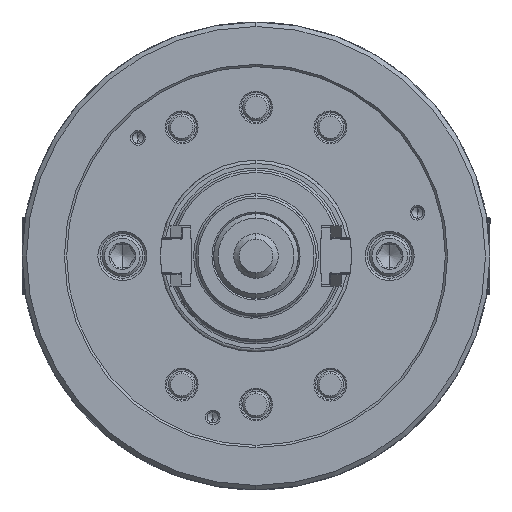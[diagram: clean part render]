
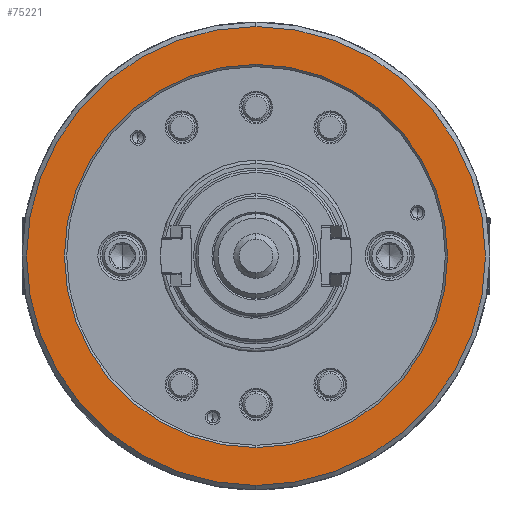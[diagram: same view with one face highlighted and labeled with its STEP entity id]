
A CAD part, left-side view. The second image highlights one B-rep face of the part: STEP entity #75221.
In plain terms, the highlighted planar face has unit normal (-1, 0, 0).
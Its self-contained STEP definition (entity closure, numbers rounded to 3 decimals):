
#4760 = CIRCLE ( 'NONE', #96041, 86. ) ;
#6132 = ORIENTED_EDGE ( 'NONE', *, *, #64045, .T. ) ;
#7219 = CIRCLE ( 'NONE', #59148, 86. ) ;
#18002 = VERTEX_POINT ( 'NONE', #44346 ) ;
#19134 = FACE_BOUND ( 'NONE', #93283, .T. ) ;
#20138 = DIRECTION ( 'NONE',  ( 1., 0., 0. ) ) ;
#21107 = DIRECTION ( 'NONE',  ( 0., 0., -1. ) ) ;
#24231 = AXIS2_PLACEMENT_3D ( 'NONE', #94598, #20138, #21107 ) ;
#26511 = ORIENTED_EDGE ( 'NONE', *, *, #77568, .F. ) ;
#31170 = CARTESIAN_POINT ( 'NONE',  ( -85., 0., 0. ) ) ;
#31635 = DIRECTION ( 'NONE',  ( 0., 0., -1. ) ) ;
#33011 = ORIENTED_EDGE ( 'NONE', *, *, #36850, .T. ) ;
#33114 = CARTESIAN_POINT ( 'NONE',  ( -85., 0., 103. ) ) ;
#35360 = FACE_OUTER_BOUND ( 'NONE', #68926, .T. ) ;
#36850 = EDGE_CURVE ( 'NONE', #44748, #76656, #4760, .T. ) ;
#38290 = EDGE_CURVE ( 'NONE', #18002, #64677, #80270, .T. ) ;
#42710 = CARTESIAN_POINT ( 'NONE',  ( -85., 0., 86. ) ) ;
#44346 = CARTESIAN_POINT ( 'NONE',  ( -85., 0., -103. ) ) ;
#44748 = VERTEX_POINT ( 'NONE', #65826 ) ;
#46571 = ORIENTED_EDGE ( 'NONE', *, *, #38290, .F. ) ;
#46956 = DIRECTION ( 'NONE',  ( 1., 0., 0. ) ) ;
#51148 = DIRECTION ( 'NONE',  ( 0., 0., -1. ) ) ;
#55188 = DIRECTION ( 'NONE',  ( 0., 0., -1. ) ) ;
#55341 = CARTESIAN_POINT ( 'NONE',  ( -85., 0., 0. ) ) ;
#59011 = DIRECTION ( 'NONE',  ( 1., 0., 0. ) ) ;
#59148 = AXIS2_PLACEMENT_3D ( 'NONE', #88637, #59011, #51148 ) ;
#62749 = DIRECTION ( 'NONE',  ( 1., 0., 0. ) ) ;
#64045 = EDGE_CURVE ( 'NONE', #76656, #44748, #7219, .T. ) ;
#64677 = VERTEX_POINT ( 'NONE', #33114 ) ;
#65826 = CARTESIAN_POINT ( 'NONE',  ( -85., 0., -86. ) ) ;
#68926 = EDGE_LOOP ( 'NONE', ( #46571, #26511 ) ) ;
#73339 = AXIS2_PLACEMENT_3D ( 'NONE', #76869, #91192, #55188 ) ;
#75221 = ADVANCED_FACE ( 'NONE', ( #35360, #19134 ), #94111, .F. ) ;
#76656 = VERTEX_POINT ( 'NONE', #42710 ) ;
#76869 = CARTESIAN_POINT ( 'NONE',  ( -85., 0., 0. ) ) ;
#77568 = EDGE_CURVE ( 'NONE', #64677, #18002, #96982, .T. ) ;
#80270 = CIRCLE ( 'NONE', #88172, 103. ) ;
#85415 = DIRECTION ( 'NONE',  ( 0., 0., -1. ) ) ;
#88172 = AXIS2_PLACEMENT_3D ( 'NONE', #31170, #46956, #31635 ) ;
#88637 = CARTESIAN_POINT ( 'NONE',  ( -85., 0., 0. ) ) ;
#91192 = DIRECTION ( 'NONE',  ( 1., 0., 0. ) ) ;
#93283 = EDGE_LOOP ( 'NONE', ( #6132, #33011 ) ) ;
#94111 = PLANE ( 'NONE',  #24231 ) ;
#94598 = CARTESIAN_POINT ( 'NONE',  ( -85., -103., 0. ) ) ;
#96041 = AXIS2_PLACEMENT_3D ( 'NONE', #55341, #62749, #85415 ) ;
#96982 = CIRCLE ( 'NONE', #73339, 103. ) ;
